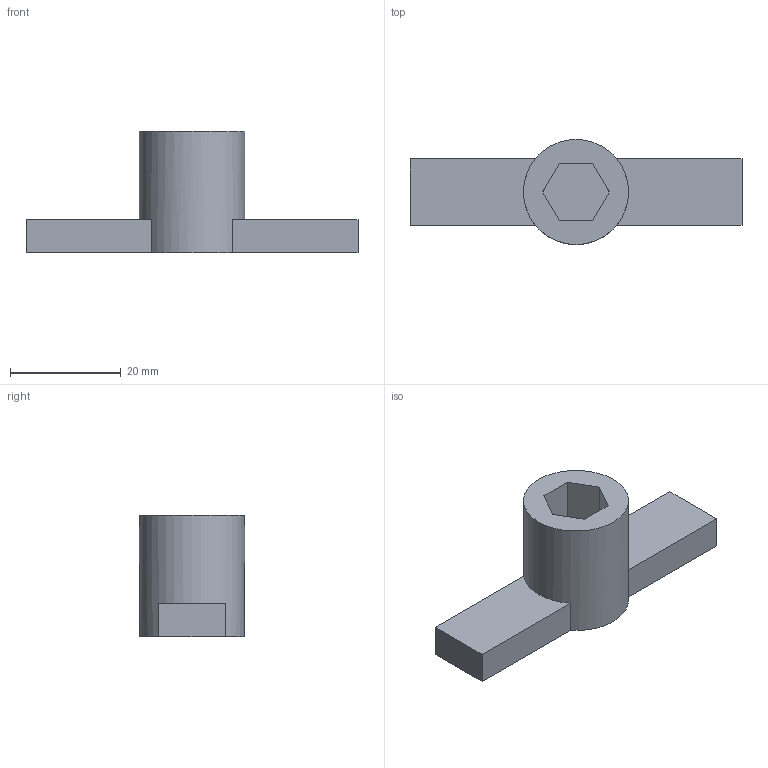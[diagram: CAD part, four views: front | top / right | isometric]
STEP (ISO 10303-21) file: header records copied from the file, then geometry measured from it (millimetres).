
FILE_DESCRIPTION(('Open CASCADE Model'),'2;1');
FILE_NAME('Open CASCADE Shape Model','2026-10-05T13:03:08',('Author'),( 'Open CASCADE'),'Open CASCADE STEP processor 7.9','Open CASCADE 7.9' ,'Unknown');
FILE_SCHEMA(('AUTOMOTIVE_DESIGN { 1 0 10303 214 1 1 1 1 }'));
Length unit declared in the file: millimetre
Products named in the file (1): Open CASCADE STEP translator 7.9 33
Bounding box: 60 x 19 x 22 mm (x, y, z)
Volume: 8069.3 mm3; surface area: 3896.4 mm2
Topology: 1 solids, 1 shells, 18 faces, 45 edges, 30 vertices
Faces by surface type: plane 17, cylinder 1
Full cylindrical faces by diameter (mm): 19 x1
Entity records: 1130 total; most frequent: CARTESIAN_POINT 184, DIRECTION 179, LINE 123, VECTOR 123, ORIENTED_EDGE 90, PCURVE 90, DEFINITIONAL_REPRESENTATION 90, EDGE_CURVE 45
